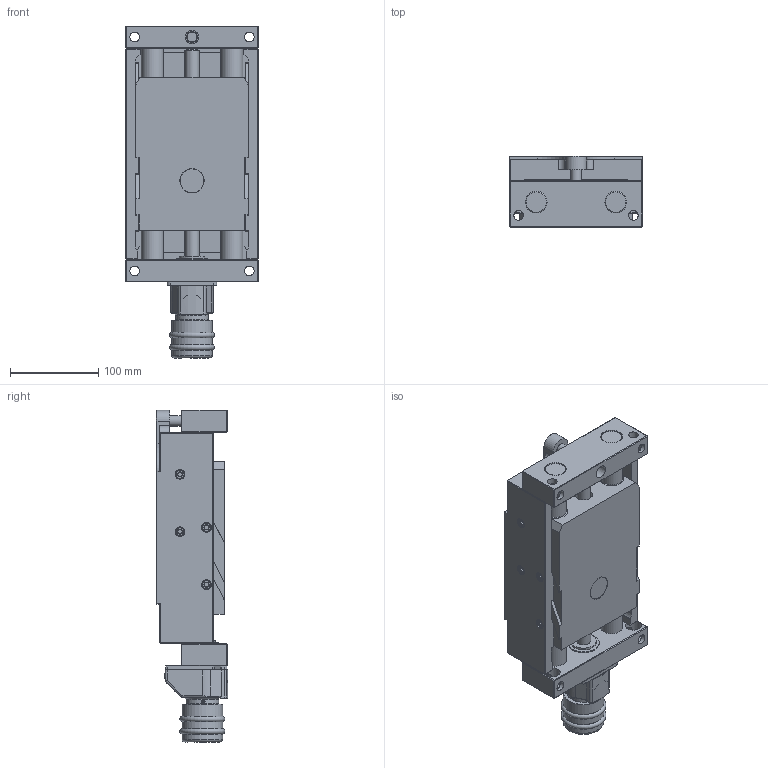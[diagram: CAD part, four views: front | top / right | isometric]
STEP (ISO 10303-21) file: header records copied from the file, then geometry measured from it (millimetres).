
FILE_DESCRIPTION (( 'STEP AP203' ), '1' );
FILE_NAME ('HT25-Hubtisch-PAE.STEP', '2015-11-11T12:04:49', ( '' ), ( '' ), 'SwSTEP 2.0', 'SolidWorks 2014', '' );
FILE_SCHEMA (( 'CONFIG_CONTROL_DESIGN' ));
Length unit declared in the file: millimetre
Products named in the file (5): HT25-000-01-Festteil-PA(E); HT25-000-02-Schlitten-komplett; HT25-000-03-Hubplatte-komplett; PAE25-PTHT-000-Elektronischer-Positionsanzeiger-Komplett_n_Standard; HT25-Hubtisch-PAE
Assembly tree (4 placements, depth 2):
  HT25-Hubtisch-PAE
    HT25-000-01-Festteil-PA(E)
    HT25-000-02-Schlitten-komplett
    HT25-000-03-Hubplatte-komplett
    PAE25-PTHT-000-Elektronischer-Positionsanzeiger-Komplett_n_Standard
Bounding box: 150 x 81.03 x 376.26 mm (x, y, z)
Volume: 2443997.2 mm3; surface area: 415420.1 mm2
Topology: 4 solids, 16 shells, 1210 faces, 2953 edges, 1906 vertices
Faces by surface type: plane 826, cylinder 249, cone 111, torus 22, sphere 2
Full cylindrical faces by diameter (mm): 1.968 x1, 2.496 x1, 2.5 x2, 3 x2, 3.2 x2, 4 x2, 5 x1, 6 x9, 6.5 x10, 8.5 x9, 10 x8, 11 x20, 11.6 x2, 12 x1, 14 x2, 14.8 x1, 14.98 x2, 16 x4, 16.5 x1, 18 x10, 19.5 x1, 19.7 x1, 20 x2, 24 x1, 24.4 x4, 24.6 x2, 24.8 x2, 25 x2, 27 x2, 27.6 x2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
Entity records: 35402 total; most frequent: CARTESIAN_POINT 7547, DIRECTION 5573, ORIENTED_EDGE 5276, EDGE_CURVE 2638, LINE 1901, VECTOR 1901, AXIS2_PLACEMENT_3D 1836, VERTEX_POINT 1800
